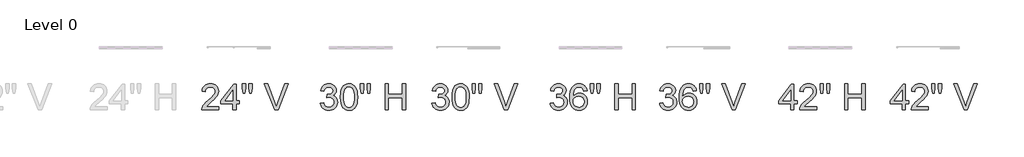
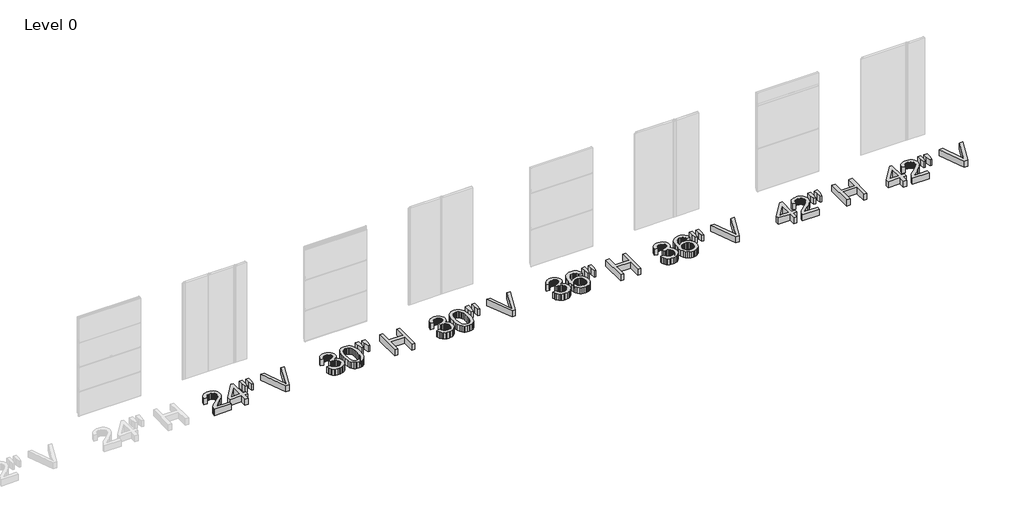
# One storey, part 3 of 5: 7 proxies.
"""IFC4 building model written with IfcOpenShell, lengths in millimetres."""

import ifcopenshell
import ifcopenshell.guid

model = None  # the IFC model being written
_history = None  # IfcOwnerHistory: only IFC2X3 demands one
_inside = {}  # id of a spatial element -> (the spatial element, [elements in it])
_under = {}  # id of a project, library or spatial element -> (it, [spatial elements below it])
_declared = {}  # id of a project -> (the project, [libraries it declares])
_typed = {}  # id of a type object -> (the type object, [elements of that type])
_made_of = {}  # id of a material, layer set ... -> (it, [elements and type objects made of it])


def new_model(schema):
    """Start an empty IFC model of exactly this schema.

    Asked for "IFC4X3", IfcOpenShell would pick the latest addendum, in which some entities
    have other attributes; the version numbers below select the first issue.
    IFC2X3 requires an IfcOwnerHistory on every rooted entity: one is made here for all.
    """
    global model, _history
    if schema == "IFC4X3":
        model = ifcopenshell.file(schema_version=(4, 3, 0, 0))
    else:
        model = ifcopenshell.file(schema=schema)
    _inside.clear()
    _under.clear()
    _declared.clear()
    _typed.clear()
    _made_of.clear()
    _history = None
    if model.schema == "IFC2X3":
        org = make("IfcOrganization", Name="unknown")
        user = make(
            "IfcPersonAndOrganization",
            ThePerson=make("IfcPerson", FamilyName="unknown"),
            TheOrganization=org,
        )
        app = make(
            "IfcApplication",
            ApplicationDeveloper=org,
            Version="unknown",
            ApplicationFullName="unknown",
            ApplicationIdentifier="unknown",
        )
        _history = make(
            "IfcOwnerHistory",
            OwningUser=user,
            OwningApplication=app,
            ChangeAction="ADDED",
            CreationDate=0,
        )
    return model


def make(cls, **values):
    """One entity of the class cls with the attributes given. An attribute that is None is left unset."""
    return model.create_entity(
        cls, **{name: value for name, value in values.items() if value is not None}
    )


def rooted(cls, **values):
    """An entity with a GlobalId (a new one), such as an element, a storey or a relation."""
    return make(cls, GlobalId=ifcopenshell.guid.new(), OwnerHistory=_history, **values)


def si_unit(unit_type, name, prefix=None):
    """IfcSIUnit, for example si_unit("LENGTHUNIT", "METRE", prefix="MILLI")."""
    return make("IfcSIUnit", UnitType=unit_type, Prefix=prefix, Name=name)


def assignment(units):
    """IfcUnitAssignment: the units of a project."""
    return None if units is None else make("IfcUnitAssignment", Units=units)


def point(xyz):
    """IfcCartesianPoint."""
    return None if xyz is None else make("IfcCartesianPoint", Coordinates=xyz)


def direction(xyz):
    """IfcDirection."""
    return None if xyz is None else make("IfcDirection", DirectionRatios=xyz)


def frame(location, z_axis=None, x_axis=None):
    """IfcAxis2Placement3D, a coordinate frame: its origin and axes. An axis left out is left unset."""
    return make(
        "IfcAxis2Placement3D",
        Location=point(location),
        Axis=direction(z_axis),
        RefDirection=direction(x_axis),
    )


def origin():
    """The frame at (0, 0, 0) with its axes left unset."""
    return frame((0.0, 0.0, 0.0))


def origin_with_axes():
    """The frame at (0, 0, 0) with the z axis (0, 0, 1) and the x axis (1, 0, 0) written out."""
    return frame((0.0, 0.0, 0.0), z_axis=(0.0, 0.0, 1.0), x_axis=(1.0, 0.0, 0.0))


def place(relative_to, where):
    """IfcLocalPlacement: puts the frame where relative to a parent placement (None: the world)."""
    return make(
        "IfcLocalPlacement", PlacementRelTo=relative_to, RelativePlacement=where
    )


def context(
    kind, dimensions, precision=None, world=None, true_north=None, identifier=None
):
    """IfcGeometricRepresentationContext, for example the 3D "Model" context."""
    return make(
        "IfcGeometricRepresentationContext",
        ContextIdentifier=identifier,
        ContextType=kind,
        CoordinateSpaceDimension=dimensions,
        Precision=precision,
        WorldCoordinateSystem=world,
        TrueNorth=true_north,
    )


def project(units=None, contexts=None):
    """IfcProject with its units and contexts."""
    return rooted(
        "IfcProject",
        Name="project",
        RepresentationContexts=contexts,
        UnitsInContext=assignment(units),
    )


def spatial(cls, under=None, at=None, **own):
    """A site, building, storey or space (cls), placed at a placement, below another one or the project."""
    s = rooted(cls, ObjectPlacement=at, **own)
    if under is not None:
        _under.setdefault(under.id(), (under, []))[1].append(s)
    return s


def polyline(points):
    """IfcPolyline through the points."""
    return make("IfcPolyline", Points=[point(p) for p in points])


def outline(outer, holes=None, kind="AREA"):
    """IfcArbitraryClosedProfileDef: a profile drawn as a closed curve; with holes, ...WithVoids."""
    if holes is None:
        return make("IfcArbitraryClosedProfileDef", ProfileType=kind, OuterCurve=outer)
    return make(
        "IfcArbitraryProfileDefWithVoids",
        ProfileType=kind,
        OuterCurve=outer,
        InnerCurves=holes,
    )


def extrude(swept, where, along, depth):
    """IfcExtrudedAreaSolid: the profile swept, set in the frame where, extruded along a direction by depth."""
    return make(
        "IfcExtrudedAreaSolid",
        SweptArea=swept,
        Position=where,
        ExtrudedDirection=direction(along),
        Depth=depth,
    )


def shape(context_of_items, identifier, shape_type, items):
    """IfcShapeRepresentation: the items that make up one representation, for example the "Body"."""
    return make(
        "IfcShapeRepresentation",
        ContextOfItems=context_of_items,
        RepresentationIdentifier=identifier,
        RepresentationType=shape_type,
        Items=items,
    )


def made_of(thing, what):
    """Note that an element or type object is made of a material, layer set ...; save() writes the relation."""
    if what is not None:
        _made_of.setdefault(what.id(), (what, []))[1].append(thing)
    return thing


def element(
    cls,
    number,
    at=None,
    inside=None,
    cuts=None,
    type_object=None,
    material=None,
    context=None,
    identifier="Body",
    shape_type=None,
    held_by="IfcProductDefinitionShape",
    body=None,
    shapes=None,
    **own,
):
    """One element of the class cls, such as IfcWall. Its Tag is "e" and its number.

    at: its placement. inside: the storey or other place that contains it. cuts: it is an
    opening in that element (IfcRelVoidsElement). A single representation is given by context,
    identifier, shape_type and body (its items); several are given by shapes. held_by: the class
    of the entity that holds the representations. save() writes the other relations.
    """
    e = rooted(cls, Tag="e%d" % number, ObjectPlacement=at, **own)
    if body is not None:
        shapes = [shape(context, identifier, shape_type, body)]
    if shapes is not None:
        e.Representation = make(held_by, Representations=shapes)
    if inside is not None:
        _inside.setdefault(inside.id(), (inside, []))[1].append(e)
    if cuts is not None:
        rooted(
            "IfcRelVoidsElement", RelatingBuildingElement=cuts, RelatedOpeningElement=e
        )
    if type_object is not None:
        _typed.setdefault(type_object.id(), (type_object, []))[1].append(e)
    return made_of(e, material)


def aggregate(whole, parts):
    """IfcRelAggregates: a whole, such as a stair, and the parts it consists of."""
    return rooted("IfcRelAggregates", RelatingObject=whole, RelatedObjects=parts)


def save(model, path):
    """Write the relations noted so far, then the file.

    IfcRelAggregates (storeys below a building ...), IfcRelContainedInSpatialStructure (elements
    in a storey), IfcRelDefinesByType, IfcRelAssociatesMaterial and IfcRelDeclares: one each for
    every whole, place, type object, material and project.
    """
    for whole, parts in _under.values():
        aggregate(whole, parts)
    for where, things in _inside.values():
        rooted(
            "IfcRelContainedInSpatialStructure",
            RelatedElements=things,
            RelatingStructure=where,
        )
    for kind, things in _typed.values():
        rooted("IfcRelDefinesByType", RelatedObjects=things, RelatingType=kind)
    for what, things in _made_of.values():
        rooted("IfcRelAssociatesMaterial", RelatedObjects=things, RelatingMaterial=what)
    for by, libraries in _declared.values():
        rooted("IfcRelDeclares", RelatingContext=by, RelatedDefinitions=libraries)
    model.write(path)


model = new_model("IFC4")

# Units and contexts
model_context = context("Model", 3, world=origin())
ifc_project = project(units=[si_unit("LENGTHUNIT", "METRE", prefix="MILLI")], contexts=[model_context])

# Site, building, storey
site = spatial("IfcSite", under=ifc_project)
building = spatial("IfcBuilding", under=site)
storey = spatial("IfcBuildingStorey", under=building, Name="Level 0", Elevation=0.0)

# Proxies
placement = place(None, origin())
element("IfcBuildingElementProxy", 1, Name="24\" Arial", ObjectType="24\" Arial", at=placement, inside=storey, context=model_context, shape_type="SweptSolid", body=[
    extrude(outline(polyline([(-22407.9539818, 9485.5823155), (-22407.9539818, 9409.440542), (-22807.6982928, 9409.440542), (-22806.0252557, 9436.2463129), (-22799.5190007, 9461.9367257), (-22780.7438075, 9502.9633112), (-22753.2688218, 9542.7630029), (-22713.5248981, 9584.4216246), (-22657.9428905, 9631.0250001), (-22575.7781838, 9704.0065926), (-22526.4793597, 9757.8783845), (-22512.100536, 9779.8881159), (-22501.8299477, 9801.6004185), (-22495.6675947, 9823.0152923), (-22493.613477, 9844.1327373), (-22495.5514115, 9864.0000519), (-22501.3652152, 9882.259392), (-22511.0548879, 9898.9107576), (-22524.6204297, 9913.9541488), (-22541.3089739, 9926.4136272), (-22560.3676539, 9935.3132547), (-22581.7964697, 9940.6530311), (-22605.5954213, 9942.4329566), (-22630.6677399, 9940.6948571), (-22653.0910832, 9935.4805584), (-22672.8654513, 9926.7900605), (-22689.990844, 9914.6233636), (-22703.84452, 9899.3894321), (-22713.8037376, 9881.4972307), (-22719.8684968, 9860.9467593), (-22722.0387975, 9837.7380181), (-22798.1805711, 9847.2557397), (-22791.6324901, 9886.562815), (-22779.721396, 9920.906547), (-22762.4472888, 9950.286936), (-22739.8101685, 9974.7039817), (-22712.3305355, 9993.8974342), (-22680.5288903, 10007.6070431), (-22644.4052327, 10015.8328084), (-22603.9595628, 10018.5747302), (-22563.1514016, 10015.5260849), (-22526.8325564, 10006.3801492), (-22495.0030272, 9991.1369231), (-22467.662814, 9969.7964065), (-22445.7042031, 9943.93869), (-22430.0194811, 9915.143864), (-22420.6086479, 9883.4119286), (-22417.4717035, 9848.7428838), (-22420.8549561, 9812.3264447), (-22431.004714, 9776.5420419), (-22449.0177459, 9740.1441921), (-22475.9908204, 9701.8874124), (-22518.9878717, 9656.2135018), (-22585.0728339, 9597.5642598), (-22672.6656163, 9524.3224171), (-22707.018643, 9485.5823155), (-22407.9539818, 9485.5823155)])), origin_with_axes(), (0.0, 0.0, 1.0), 152.4),
    extrude(outline(polyline([(-22084.3514443, 9409.440542), (-22084.3514443, 9552.2063674), (-22360.3653733, 9552.2063674), (-22360.3653733, 9628.3481409), (-22065.316001, 10009.0570085), (-22008.2096708, 10009.0570085), (-22008.2096708, 9628.3481409), (-21932.0678973, 9628.3481409), (-21932.0678973, 9552.2063674), (-22008.2096708, 9552.2063674), (-22008.2096708, 9409.440542), (-22084.3514443, 9409.440542)]), holes=[polyline([(-22084.3514443, 9628.3481409), (-22084.3514443, 9863.6143239), (-22266.6753005, 9628.3481409), (-22084.3514443, 9628.3481409)])]), origin_with_axes(), (0.0, 0.0, 1.0), 152.4),
    extrude(outline(polyline([(-21846.8545453, 9799.6671313), (-21865.4438455, 9917.3002228), (-21865.4438455, 10018.5747302), (-21789.302072, 10018.5747302), (-21789.302072, 9917.3002228), (-21805.9580849, 9799.6671313), (-21846.8545453, 9799.6671313)])), origin_with_axes(), (0.0, 0.0, 1.0), 152.4),
    extrude(outline(polyline([(-21695.0171415, 9799.6671313), (-21713.1602984, 9917.3002228), (-21713.1602984, 10018.5747302), (-21637.0185249, 10018.5747302), (-21637.0185249, 9917.3002228), (-21654.8642531, 9799.6671313), (-21695.0171415, 9799.6671313)])), origin_with_axes(), (0.0, 0.0, 1.0), 152.4),
    extrude(outline(polyline([(-21114.4361184, 9409.440542), (-21356.8405927, 10018.5747302), (-21275.3451007, 10018.5747302), (-21113.0976888, 9579.7185316), (-21080.2318061, 9480.8234547), (-21047.8120666, 9579.7185316), (-20885.1185114, 10018.5747302), (-20803.6230195, 10018.5747302), (-21035.7662001, 9409.440542), (-21114.4361184, 9409.440542)])), origin_with_axes(), (0.0, 0.0, 1.0), 152.4),
])
element("IfcBuildingElementProxy", 2, Name="24\" Arial", ObjectType="24\" Arial", at=placement, inside=storey, context=model_context, shape_type="SweptSolid", body=[
    extrude(outline(polyline([(-20054.9805711, 9571.2418107), (-19978.8387975, 9580.7595324), (-19961.7924093, 9532.9106738), (-19950.2995745, 9514.8139901), (-19936.8269792, 9500.6024701), (-19921.0678999, 9489.8671492), (-19902.7156133, 9482.1990629), (-19881.7701194, 9477.5982111), (-19858.231418, 9476.0645938), (-19830.6448966, 9478.1744794), (-19806.0326631, 9484.5041361), (-19784.3947177, 9495.053564), (-19765.7310603, 9509.822763), (-19750.7016111, 9527.7056697), (-19739.9662903, 9547.5962209), (-19733.5250978, 9569.4944165), (-19731.3780336, 9593.4002566), (-19733.5065085, 9616.1675019), (-19739.8919331, 9636.8806297), (-19750.5343074, 9655.5396397), (-19765.4336315, 9672.1445321), (-19783.6139671, 9685.7751364), (-19804.0993759, 9695.5112824), (-19826.8898579, 9701.35297), (-19851.9854132, 9703.3001992), (-19876.0399676, 9701.2181976), (-19905.3738833, 9694.9721927), (-19896.8971624, 9771.1139662), (-19884.7025815, 9770.2216798), (-19839.0844388, 9775.6869341), (-19798.2995142, 9792.0826968), (-19781.5133762, 9804.48176), (-19769.5232776, 9819.8179327), (-19762.3292184, 9838.0912148), (-19759.9311987, 9859.3016063), (-19761.6692983, 9876.5199455), (-19766.883597, 9892.1860783), (-19775.5740948, 9906.3000044), (-19787.7407917, 9918.861724), (-19802.6494105, 9929.1741383), (-19819.5656736, 9936.5401485), (-19838.4895812, 9940.9597546), (-19859.4211332, 9942.4329566), (-19880.2969173, 9940.9458126), (-19899.35095, 9936.4843806), (-19916.5832313, 9929.0486605), (-19931.9937611, 9918.6386524), (-19945.2014589, 9905.2543563), (-19955.8252439, 9888.8957721), (-19963.8651163, 9869.5629), (-19969.3210759, 9847.2557397), (-20045.4628494, 9856.7734614), (-20036.4377441, 9893.1248379), (-20023.0441534, 9925.1449075), (-20005.282077, 9952.8336701), (-19983.1515152, 9976.1911258), (-19957.3495665, 9994.7339527), (-19928.5733299, 10007.9788291), (-19896.8228052, 10015.9257549), (-19862.0979924, 10018.5747302), (-19814.2305445, 10013.3511368), (-19770.2668496, 9997.6803568), (-19733.199785, 9972.9565875), (-19706.0222282, 9940.5740266), (-19689.3476259, 9903.2653012), (-19683.7894252, 9863.7630383), (-19689.0687864, 9826.956224), (-19704.9068702, 9793.5698408), (-19731.0806048, 9765.1282116), (-19767.3669188, 9743.1556588), (-19741.992524, 9735.2180276), (-19719.7039531, 9723.8971438), (-19700.501206, 9709.1930073), (-19684.3842828, 9691.1056183), (-19671.6320229, 9670.0811198), (-19662.5232658, 9646.5656551), (-19657.0580115, 9620.5592241), (-19655.2362601, 9592.0618269), (-19658.8797629, 9553.4332612), (-19669.8102714, 9517.8533406), (-19688.0277856, 9485.3220653), (-19713.5323054, 9455.8394353), (-19744.6043207, 9431.3759162), (-19779.5243211, 9413.9019741), (-19818.2923066, 9403.4176088), (-19860.9082772, 9399.9228203), (-19899.4253072, 9402.906403), (-19934.5219059, 9411.857151), (-19966.1980734, 9426.7750644), (-19994.4538097, 9447.6601432), (-20018.1458728, 9473.2854935), (-20036.1310207, 9502.4242215), (-20048.4092535, 9535.0763273), (-20054.9805711, 9571.2418107)])), origin_with_axes(), (0.0, 0.0, 1.0), 152.4),
    extrude(outline(polyline([(-19588.6122083, 9709.1000608), (-19583.0168289, 9806.6009403), (-19576.0226047, 9847.9481912), (-19566.2306909, 9884.3599829), (-19553.6829132, 9916.1337442), (-19538.4210978, 9943.5669039), (-19520.4452445, 9966.6594621), (-19499.7553534, 9985.4114186), (-19476.2817146, 9999.9203674), (-19449.9546183, 10010.2839023), (-19420.7740643, 10016.5020232), (-19388.7400528, 10018.5747302), (-19341.8206591, 10013.6671549), (-19299.8088408, 9998.9444292), (-19264.6750634, 9974.9828212), (-19238.389793, 9942.3585994), (-19218.5364204, 9901.3506033), (-19202.6983366, 9852.2376722), (-19192.3255071, 9789.8705701), (-19188.8678973, 9709.1000608), (-19194.4075088, 9612.1568604), (-19201.3320231, 9570.9490293), (-19211.0263431, 9534.5837108), (-19223.4765269, 9502.7960075), (-19238.6686325, 9475.3210218), (-19256.6026598, 9452.1587538), (-19277.2786089, 9433.3092034), (-19300.7801317, 9418.7026608), (-19327.1908799, 9408.2694161), (-19356.5108536, 9402.0094693), (-19388.7400528, 9399.9228203), (-19430.677514, 9403.5477339), (-19467.8561143, 9414.4224745), (-19500.2758538, 9432.5470421), (-19527.9367325, 9457.9214369), (-19554.4822532, 9503.7905351), (-19573.4433393, 9560.9433384), (-19584.819991, 9629.379847), (-19588.6122083, 9709.1000608)]), holes=[polyline([(-19512.4704348, 9709.2487752), (-19510.2397187, 9643.0569246), (-19503.5475707, 9589.4779142), (-19492.3939906, 9548.511744), (-19476.7789784, 9520.1584139), (-19457.8922494, 9500.8673676), (-19436.9235188, 9487.0880488), (-19413.8727866, 9478.8204576), (-19388.7400528, 9476.0645938), (-19363.607319, 9478.8297522), (-19340.5565867, 9487.1252274), (-19319.5878561, 9500.9510195), (-19300.7011272, 9520.3071283), (-19285.086115, 9548.7069316), (-19273.9325349, 9589.6638072), (-19267.2403868, 9643.1777551), (-19265.0096708, 9709.2487752), (-19267.1660296, 9773.6885843), (-19273.6351061, 9826.3241877), (-19284.4169002, 9867.1555856), (-19299.511412, 9896.1827778), (-19318.0821228, 9916.417231), (-19339.2925143, 9930.8704119), (-19363.1425864, 9939.5423205), (-19389.6323392, 9942.4329566), (-19414.6349479, 9939.8862225), (-19437.2953048, 9932.2460201), (-19457.6134099, 9919.5123495), (-19475.5892632, 9901.6852107), (-19491.7247758, 9870.0834004), (-19503.2501419, 9827.4767244), (-19510.1653615, 9773.8651827), (-19512.4704348, 9709.2487752)])]), origin_with_axes(), (0.0, 0.0, 1.0), 152.4),
    extrude(outline(polyline([(-19103.6545453, 9799.6671313), (-19122.2438455, 9917.3002228), (-19122.2438455, 10018.5747302), (-19046.102072, 10018.5747302), (-19046.102072, 9917.3002228), (-19062.7580849, 9799.6671313), (-19103.6545453, 9799.6671313)])), origin_with_axes(), (0.0, 0.0, 1.0), 152.4),
    extrude(outline(polyline([(-18951.8171415, 9799.6671313), (-18969.9602984, 9917.3002228), (-18969.9602984, 10018.5747302), (-18893.8185249, 10018.5747302), (-18893.8185249, 9917.3002228), (-18911.6642531, 9799.6671313), (-18951.8171415, 9799.6671313)])), origin_with_axes(), (0.0, 0.0, 1.0), 152.4),
    extrude(outline(polyline([(-18551.1805441, 9409.440542), (-18551.1805441, 10018.5747302), (-18475.0387706, 10018.5747302), (-18475.0387706, 9771.1139662), (-18151.4362331, 9771.1139662), (-18151.4362331, 10018.5747302), (-18075.2944596, 10018.5747302), (-18075.2944596, 9409.440542), (-18151.4362331, 9409.440542), (-18151.4362331, 9694.9721927), (-18475.0387706, 9694.9721927), (-18475.0387706, 9409.440542), (-18551.1805441, 9409.440542)])), origin_with_axes(), (0.0, 0.0, 1.0), 152.4),
])
element("IfcBuildingElementProxy", 3, Name="24\" Arial", ObjectType="24\" Arial", at=placement, inside=storey, context=model_context, shape_type="SweptSolid", body=[
    extrude(outline(polyline([(-17464.1805711, 9571.2418107), (-17388.0387975, 9580.7595324), (-17370.9924093, 9532.9106738), (-17359.4995745, 9514.8139901), (-17346.0269792, 9500.6024701), (-17330.2678999, 9489.8671492), (-17311.9156133, 9482.1990629), (-17290.9701194, 9477.5982111), (-17267.431418, 9476.0645938), (-17239.8448966, 9478.1744794), (-17215.2326631, 9484.5041361), (-17193.5947177, 9495.053564), (-17174.9310603, 9509.822763), (-17159.9016111, 9527.7056697), (-17149.1662903, 9547.5962209), (-17142.7250978, 9569.4944165), (-17140.5780336, 9593.4002566), (-17142.7065085, 9616.1675019), (-17149.0919331, 9636.8806297), (-17159.7343074, 9655.5396397), (-17174.6336315, 9672.1445321), (-17192.8139671, 9685.7751364), (-17213.2993759, 9695.5112824), (-17236.0898579, 9701.35297), (-17261.1854132, 9703.3001992), (-17285.2399676, 9701.2181976), (-17314.5738833, 9694.9721927), (-17306.0971624, 9771.1139662), (-17293.9025815, 9770.2216798), (-17248.2844388, 9775.6869341), (-17207.4995142, 9792.0826968), (-17190.7133762, 9804.48176), (-17178.7232776, 9819.8179327), (-17171.5292184, 9838.0912148), (-17169.1311987, 9859.3016063), (-17170.8692983, 9876.5199455), (-17176.083597, 9892.1860783), (-17184.7740948, 9906.3000044), (-17196.9407917, 9918.861724), (-17211.8494105, 9929.1741383), (-17228.7656736, 9936.5401485), (-17247.6895812, 9940.9597546), (-17268.6211332, 9942.4329566), (-17289.4969173, 9940.9458126), (-17308.55095, 9936.4843806), (-17325.7832313, 9929.0486605), (-17341.1937611, 9918.6386524), (-17354.4014589, 9905.2543563), (-17365.0252439, 9888.8957721), (-17373.0651163, 9869.5629), (-17378.5210759, 9847.2557397), (-17454.6628494, 9856.7734614), (-17445.6377441, 9893.1248379), (-17432.2441534, 9925.1449075), (-17414.482077, 9952.8336701), (-17392.3515152, 9976.1911258), (-17366.5495665, 9994.7339527), (-17337.7733299, 10007.9788291), (-17306.0228052, 10015.9257549), (-17271.2979924, 10018.5747302), (-17223.4305445, 10013.3511368), (-17179.4668496, 9997.6803568), (-17142.399785, 9972.9565875), (-17115.2222282, 9940.5740266), (-17098.5476259, 9903.2653012), (-17092.9894252, 9863.7630383), (-17098.2687864, 9826.956224), (-17114.1068702, 9793.5698408), (-17140.2806048, 9765.1282116), (-17176.5669188, 9743.1556588), (-17151.192524, 9735.2180276), (-17128.9039531, 9723.8971438), (-17109.701206, 9709.1930073), (-17093.5842828, 9691.1056183), (-17080.8320229, 9670.0811198), (-17071.7232658, 9646.5656551), (-17066.2580115, 9620.5592241), (-17064.4362601, 9592.0618269), (-17068.0797629, 9553.4332612), (-17079.0102714, 9517.8533406), (-17097.2277856, 9485.3220653), (-17122.7323054, 9455.8394353), (-17153.8043207, 9431.3759162), (-17188.7243211, 9413.9019741), (-17227.4923066, 9403.4176088), (-17270.1082772, 9399.9228203), (-17308.6253072, 9402.906403), (-17343.7219059, 9411.857151), (-17375.3980734, 9426.7750644), (-17403.6538097, 9447.6601432), (-17427.3458728, 9473.2854935), (-17445.3310207, 9502.4242215), (-17457.6092535, 9535.0763273), (-17464.1805711, 9571.2418107)])), origin_with_axes(), (0.0, 0.0, 1.0), 152.4),
    extrude(outline(polyline([(-16997.8122083, 9709.1000608), (-16992.2168289, 9806.6009403), (-16985.2226047, 9847.9481912), (-16975.4306909, 9884.3599829), (-16962.8829132, 9916.1337442), (-16947.6210978, 9943.5669039), (-16929.6452445, 9966.6594621), (-16908.9553534, 9985.4114186), (-16885.4817146, 9999.9203674), (-16859.1546183, 10010.2839023), (-16829.9740643, 10016.5020232), (-16797.9400528, 10018.5747302), (-16751.0206591, 10013.6671549), (-16709.0088408, 9998.9444292), (-16673.8750634, 9974.9828212), (-16647.589793, 9942.3585994), (-16627.7364204, 9901.3506033), (-16611.8983366, 9852.2376722), (-16601.5255071, 9789.8705701), (-16598.0678973, 9709.1000608), (-16603.6075088, 9612.1568604), (-16610.5320231, 9570.9490293), (-16620.2263431, 9534.5837108), (-16632.6765269, 9502.7960075), (-16647.8686325, 9475.3210218), (-16665.8026598, 9452.1587538), (-16686.4786089, 9433.3092034), (-16709.9801317, 9418.7026608), (-16736.3908799, 9408.2694161), (-16765.7108536, 9402.0094693), (-16797.9400528, 9399.9228203), (-16839.877514, 9403.5477339), (-16877.0561143, 9414.4224745), (-16909.4758538, 9432.5470421), (-16937.1367325, 9457.9214369), (-16963.6822532, 9503.7905351), (-16982.6433393, 9560.9433384), (-16994.019991, 9629.379847), (-16997.8122083, 9709.1000608)]), holes=[polyline([(-16921.6704348, 9709.2487752), (-16919.4397187, 9643.0569246), (-16912.7475707, 9589.4779142), (-16901.5939906, 9548.511744), (-16885.9789784, 9520.1584139), (-16867.0922494, 9500.8673676), (-16846.1235188, 9487.0880488), (-16823.0727866, 9478.8204576), (-16797.9400528, 9476.0645938), (-16772.807319, 9478.8297522), (-16749.7565867, 9487.1252274), (-16728.7878561, 9500.9510195), (-16709.9011272, 9520.3071283), (-16694.286115, 9548.7069316), (-16683.1325349, 9589.6638072), (-16676.4403868, 9643.1777551), (-16674.2096708, 9709.2487752), (-16676.3660296, 9773.6885843), (-16682.8351061, 9826.3241877), (-16693.6169002, 9867.1555856), (-16708.711412, 9896.1827778), (-16727.2821228, 9916.417231), (-16748.4925143, 9930.8704119), (-16772.3425864, 9939.5423205), (-16798.8323392, 9942.4329566), (-16823.8349479, 9939.8862225), (-16846.4953048, 9932.2460201), (-16866.8134099, 9919.5123495), (-16884.7892632, 9901.6852107), (-16900.9247758, 9870.0834004), (-16912.4501419, 9827.4767244), (-16919.3653615, 9773.8651827), (-16921.6704348, 9709.2487752)])]), origin_with_axes(), (0.0, 0.0, 1.0), 152.4),
    extrude(outline(polyline([(-16512.8545453, 9799.6671313), (-16531.4438455, 9917.3002228), (-16531.4438455, 10018.5747302), (-16455.302072, 10018.5747302), (-16455.302072, 9917.3002228), (-16471.9580849, 9799.6671313), (-16512.8545453, 9799.6671313)])), origin_with_axes(), (0.0, 0.0, 1.0), 152.4),
    extrude(outline(polyline([(-16361.0171415, 9799.6671313), (-16379.1602984, 9917.3002228), (-16379.1602984, 10018.5747302), (-16303.0185249, 10018.5747302), (-16303.0185249, 9917.3002228), (-16320.8642531, 9799.6671313), (-16361.0171415, 9799.6671313)])), origin_with_axes(), (0.0, 0.0, 1.0), 152.4),
    extrude(outline(polyline([(-15780.4361184, 9409.440542), (-16022.8405927, 10018.5747302), (-15941.3451007, 10018.5747302), (-15779.0976888, 9579.7185316), (-15746.2318061, 9480.8234547), (-15713.8120666, 9579.7185316), (-15551.1185114, 10018.5747302), (-15469.6230195, 10018.5747302), (-15701.7662001, 9409.440542), (-15780.4361184, 9409.440542)])), origin_with_axes(), (0.0, 0.0, 1.0), 152.4),
])
element("IfcBuildingElementProxy", 4, Name="24\" Arial", ObjectType="24\" Arial", at=placement, inside=storey, context=model_context, shape_type="SweptSolid", body=[
    extrude(outline(polyline([(-14720.9805711, 9571.2418107), (-14644.8387975, 9580.7595324), (-14627.7924093, 9532.9106738), (-14616.2995745, 9514.8139901), (-14602.8269792, 9500.6024701), (-14587.0678999, 9489.8671492), (-14568.7156133, 9482.1990629), (-14547.7701194, 9477.5982111), (-14524.231418, 9476.0645938), (-14496.6448966, 9478.1744794), (-14472.0326631, 9484.5041361), (-14450.3947177, 9495.053564), (-14431.7310603, 9509.822763), (-14416.7016111, 9527.7056697), (-14405.9662903, 9547.5962209), (-14399.5250978, 9569.4944165), (-14397.3780336, 9593.4002566), (-14399.5065085, 9616.1675019), (-14405.8919331, 9636.8806297), (-14416.5343074, 9655.5396397), (-14431.4336315, 9672.1445321), (-14449.6139671, 9685.7751364), (-14470.0993759, 9695.5112824), (-14492.8898579, 9701.35297), (-14517.9854132, 9703.3001992), (-14542.0399676, 9701.2181976), (-14571.3738833, 9694.9721927), (-14562.8971624, 9771.1139662), (-14550.7025815, 9770.2216798), (-14505.0844388, 9775.6869341), (-14464.2995142, 9792.0826968), (-14447.5133762, 9804.48176), (-14435.5232776, 9819.8179327), (-14428.3292184, 9838.0912148), (-14425.9311987, 9859.3016063), (-14427.6692983, 9876.5199455), (-14432.883597, 9892.1860783), (-14441.5740948, 9906.3000044), (-14453.7407917, 9918.861724), (-14468.6494105, 9929.1741383), (-14485.5656736, 9936.5401485), (-14504.4895812, 9940.9597546), (-14525.4211332, 9942.4329566), (-14546.2969173, 9940.9458126), (-14565.35095, 9936.4843806), (-14582.5832313, 9929.0486605), (-14597.9937611, 9918.6386524), (-14611.2014589, 9905.2543563), (-14621.8252439, 9888.8957721), (-14629.8651163, 9869.5629), (-14635.3210759, 9847.2557397), (-14711.4628494, 9856.7734614), (-14702.4377441, 9893.1248379), (-14689.0441534, 9925.1449075), (-14671.282077, 9952.8336701), (-14649.1515152, 9976.1911258), (-14623.3495665, 9994.7339527), (-14594.5733299, 10007.9788291), (-14562.8228052, 10015.9257549), (-14528.0979924, 10018.5747302), (-14480.2305445, 10013.3511368), (-14436.2668496, 9997.6803568), (-14399.199785, 9972.9565875), (-14372.0222282, 9940.5740266), (-14355.3476259, 9903.2653012), (-14349.7894252, 9863.7630383), (-14355.0687864, 9826.956224), (-14370.9068702, 9793.5698408), (-14397.0806048, 9765.1282116), (-14433.3669188, 9743.1556588), (-14407.992524, 9735.2180276), (-14385.7039531, 9723.8971438), (-14366.501206, 9709.1930073), (-14350.3842828, 9691.1056183), (-14337.6320229, 9670.0811198), (-14328.5232658, 9646.5656551), (-14323.0580115, 9620.5592241), (-14321.2362601, 9592.0618269), (-14324.8797629, 9553.4332612), (-14335.8102714, 9517.8533406), (-14354.0277856, 9485.3220653), (-14379.5323054, 9455.8394353), (-14410.6043207, 9431.3759162), (-14445.5243211, 9413.9019741), (-14484.2923066, 9403.4176088), (-14526.9082772, 9399.9228203), (-14565.4253072, 9402.906403), (-14600.5219059, 9411.857151), (-14632.1980734, 9426.7750644), (-14660.4538097, 9447.6601432), (-14684.1458728, 9473.2854935), (-14702.1310207, 9502.4242215), (-14714.4092535, 9535.0763273), (-14720.9805711, 9571.2418107)])), origin_with_axes(), (0.0, 0.0, 1.0), 152.4),
    extrude(outline(polyline([(-13864.385619, 9856.7734614), (-13940.5273925, 9847.2557397), (-13952.7963306, 9884.9920191), (-13969.3779864, 9910.7567891), (-13985.7458652, 9924.6151124), (-14003.9169061, 9934.5139148), (-14023.8911091, 9940.4531962), (-14045.6684743, 9942.4329566), (-14081.0625018, 9937.8228102), (-14114.3745278, 9923.9923709), (-14142.9834607, 9894.8629375), (-14166.350211, 9854.765817), (-14175.4822048, 9829.1915873), (-14182.1325269, 9798.0498622), (-14187.9881564, 9719.0639257), (-14157.4459363, 9754.6996142), (-14120.8436042, 9779.8137587), (-14080.2259833, 9794.7037881), (-14037.6378966, 9799.6671313), (-14001.0541539, 9796.274584), (-13967.2959848, 9786.0969422), (-13936.3633893, 9769.1342058), (-13908.2563674, 9745.3863748), (-13884.8989117, 9716.2662361), (-13868.2150148, 9683.1865764), (-13858.2046767, 9646.1473958), (-13854.8678973, 9605.1486943), (-13856.4386932, 9577.3902218), (-13861.1510808, 9550.6262768), (-13869.0050601, 9524.8568595), (-13880.0006311, 9500.0819697), (-13893.7474186, 9477.2264251), (-13909.8550472, 9457.2150435), (-13928.3235169, 9440.0478248), (-13949.1528278, 9425.724769), (-13971.8968366, 9414.4364164), (-13996.1094, 9406.3733075), (-14021.7905182, 9401.5354421), (-14048.9401911, 9399.9228203), (-14094.3306148, 9404.1983594), (-14135.324669, 9417.0249765), (-14171.9223538, 9438.4026717), (-14204.123669, 9468.331445), (-14230.3764082, 9508.0753687), (-14249.1283647, 9558.8985154), (-14260.3795387, 9620.800885), (-14264.12993, 9693.7824775), (-14259.9659267, 9775.6032822), (-14247.473917, 9845.4339883), (-14226.6539008, 9903.2745958), (-14213.1208903, 9927.6986126), (-14197.5058781, 9949.1251047), (-14165.9133625, 9979.5093158), (-14129.2831465, 10001.2123238), (-14087.6152301, 10014.2341286), (-14040.9096135, 10018.5747302), (-14005.8408987, 10015.8885763), (-13974.0996686, 10007.8301147), (-13945.6859233, 9994.3993453), (-13920.5996627, 9975.5962682), (-13899.5193963, 9952.0529195), (-13883.1236336, 9924.4013355), (-13871.4123745, 9892.6415161), (-13864.385619, 9856.7734614)]), holes=[polyline([(-14187.9881564, 9606.3384095), (-14183.5824923, 9572.5988297), (-14170.3654999, 9540.3835725), (-14149.8429125, 9512.6855152), (-14123.5204634, 9492.4975352), (-14091.7513494, 9480.1728292), (-14054.8887672, 9476.0645938), (-14028.4222511, 9478.1930687), (-14004.6418888, 9484.5784933), (-13983.5476804, 9495.2208677), (-13965.1396259, 9510.1201918), (-13950.2077706, 9528.6723133), (-13939.5421596, 9550.2730801), (-13933.142793, 9574.9224922), (-13931.0096708, 9602.6205494), (-13933.1149091, 9629.23578), (-13939.4306238, 9652.8674278), (-13949.956815, 9673.515493), (-13964.6934827, 9691.1799755), (-13983.1573051, 9705.3310802), (-14004.8649604, 9715.4390122), (-14029.8164486, 9721.5037714), (-14058.0117696, 9723.5253578), (-14084.125089, 9721.5037714), (-14108.1842908, 9715.4390122), (-14130.1893749, 9705.3310802), (-14150.1403413, 9691.1799755), (-14166.6987604, 9673.7478592), (-14178.5262027, 9653.7968928), (-14185.622668, 9631.3270762), (-14187.9881564, 9606.3384095)])]), origin_with_axes(), (0.0, 0.0, 1.0), 152.4),
    extrude(outline(polyline([(-13769.6545453, 9799.6671313), (-13788.2438455, 9917.3002228), (-13788.2438455, 10018.5747302), (-13712.102072, 10018.5747302), (-13712.102072, 9917.3002228), (-13728.7580849, 9799.6671313), (-13769.6545453, 9799.6671313)])), origin_with_axes(), (0.0, 0.0, 1.0), 152.4),
    extrude(outline(polyline([(-13617.8171415, 9799.6671313), (-13635.9602984, 9917.3002228), (-13635.9602984, 10018.5747302), (-13559.8185249, 10018.5747302), (-13559.8185249, 9917.3002228), (-13577.6642531, 9799.6671313), (-13617.8171415, 9799.6671313)])), origin_with_axes(), (0.0, 0.0, 1.0), 152.4),
    extrude(outline(polyline([(-13217.1805441, 9409.440542), (-13217.1805441, 10018.5747302), (-13141.0387706, 10018.5747302), (-13141.0387706, 9771.1139662), (-12817.4362331, 9771.1139662), (-12817.4362331, 10018.5747302), (-12741.2944596, 10018.5747302), (-12741.2944596, 9409.440542), (-12817.4362331, 9409.440542), (-12817.4362331, 9694.9721927), (-13141.0387706, 9694.9721927), (-13141.0387706, 9409.440542), (-13217.1805441, 9409.440542)])), origin_with_axes(), (0.0, 0.0, 1.0), 152.4),
])
element("IfcBuildingElementProxy", 5, Name="24\" Arial", ObjectType="24\" Arial", at=placement, inside=storey, context=model_context, shape_type="SweptSolid", body=[
    extrude(outline(polyline([(-12180.9805711, 9571.2418107), (-12104.8387975, 9580.7595324), (-12087.7924093, 9532.9106738), (-12076.2995745, 9514.8139901), (-12062.8269792, 9500.6024701), (-12047.0678999, 9489.8671492), (-12028.7156133, 9482.1990629), (-12007.7701194, 9477.5982111), (-11984.231418, 9476.0645938), (-11956.6448966, 9478.1744794), (-11932.0326631, 9484.5041361), (-11910.3947177, 9495.053564), (-11891.7310603, 9509.822763), (-11876.7016111, 9527.7056697), (-11865.9662903, 9547.5962209), (-11859.5250978, 9569.4944165), (-11857.3780336, 9593.4002566), (-11859.5065085, 9616.1675019), (-11865.8919331, 9636.8806297), (-11876.5343074, 9655.5396397), (-11891.4336315, 9672.1445321), (-11909.6139671, 9685.7751364), (-11930.0993759, 9695.5112824), (-11952.8898579, 9701.35297), (-11977.9854132, 9703.3001992), (-12002.0399676, 9701.2181976), (-12031.3738833, 9694.9721927), (-12022.8971624, 9771.1139662), (-12010.7025815, 9770.2216798), (-11965.0844388, 9775.6869341), (-11924.2995142, 9792.0826968), (-11907.5133762, 9804.48176), (-11895.5232776, 9819.8179327), (-11888.3292184, 9838.0912148), (-11885.9311987, 9859.3016063), (-11887.6692983, 9876.5199455), (-11892.883597, 9892.1860783), (-11901.5740948, 9906.3000044), (-11913.7407917, 9918.861724), (-11928.6494105, 9929.1741383), (-11945.5656736, 9936.5401485), (-11964.4895812, 9940.9597546), (-11985.4211332, 9942.4329566), (-12006.2969173, 9940.9458126), (-12025.35095, 9936.4843806), (-12042.5832313, 9929.0486605), (-12057.9937611, 9918.6386524), (-12071.2014589, 9905.2543563), (-12081.8252439, 9888.8957721), (-12089.8651163, 9869.5629), (-12095.3210759, 9847.2557397), (-12171.4628494, 9856.7734614), (-12162.4377441, 9893.1248379), (-12149.0441534, 9925.1449075), (-12131.282077, 9952.8336701), (-12109.1515152, 9976.1911258), (-12083.3495665, 9994.7339527), (-12054.5733299, 10007.9788291), (-12022.8228052, 10015.9257549), (-11988.0979924, 10018.5747302), (-11940.2305445, 10013.3511368), (-11896.2668496, 9997.6803568), (-11859.199785, 9972.9565875), (-11832.0222282, 9940.5740266), (-11815.3476259, 9903.2653012), (-11809.7894252, 9863.7630383), (-11815.0687864, 9826.956224), (-11830.9068702, 9793.5698408), (-11857.0806048, 9765.1282116), (-11893.3669188, 9743.1556588), (-11867.992524, 9735.2180276), (-11845.7039531, 9723.8971438), (-11826.501206, 9709.1930073), (-11810.3842828, 9691.1056183), (-11797.6320229, 9670.0811198), (-11788.5232658, 9646.5656551), (-11783.0580115, 9620.5592241), (-11781.2362601, 9592.0618269), (-11784.8797629, 9553.4332612), (-11795.8102714, 9517.8533406), (-11814.0277856, 9485.3220653), (-11839.5323054, 9455.8394353), (-11870.6043207, 9431.3759162), (-11905.5243211, 9413.9019741), (-11944.2923066, 9403.4176088), (-11986.9082772, 9399.9228203), (-12025.4253072, 9402.906403), (-12060.5219059, 9411.857151), (-12092.1980734, 9426.7750644), (-12120.4538097, 9447.6601432), (-12144.1458728, 9473.2854935), (-12162.1310207, 9502.4242215), (-12174.4092535, 9535.0763273), (-12180.9805711, 9571.2418107)])), origin_with_axes(), (0.0, 0.0, 1.0), 152.4),
    extrude(outline(polyline([(-11324.385619, 9856.7734614), (-11400.5273925, 9847.2557397), (-11412.7963306, 9884.9920191), (-11429.3779864, 9910.7567891), (-11445.7458652, 9924.6151124), (-11463.9169061, 9934.5139148), (-11483.8911091, 9940.4531962), (-11505.6684743, 9942.4329566), (-11541.0625018, 9937.8228102), (-11574.3745278, 9923.9923709), (-11602.9834607, 9894.8629375), (-11626.350211, 9854.765817), (-11635.4822048, 9829.1915873), (-11642.1325269, 9798.0498622), (-11647.9881564, 9719.0639257), (-11617.4459363, 9754.6996142), (-11580.8436042, 9779.8137587), (-11540.2259833, 9794.7037881), (-11497.6378966, 9799.6671313), (-11461.0541539, 9796.274584), (-11427.2959848, 9786.0969422), (-11396.3633893, 9769.1342058), (-11368.2563674, 9745.3863748), (-11344.8989117, 9716.2662361), (-11328.2150148, 9683.1865764), (-11318.2046767, 9646.1473958), (-11314.8678973, 9605.1486943), (-11316.4386932, 9577.3902218), (-11321.1510808, 9550.6262768), (-11329.0050601, 9524.8568595), (-11340.0006311, 9500.0819697), (-11353.7474186, 9477.2264251), (-11369.8550472, 9457.2150435), (-11388.3235169, 9440.0478248), (-11409.1528278, 9425.724769), (-11431.8968366, 9414.4364164), (-11456.1094, 9406.3733075), (-11481.7905182, 9401.5354421), (-11508.9401911, 9399.9228203), (-11554.3306148, 9404.1983594), (-11595.324669, 9417.0249765), (-11631.9223538, 9438.4026717), (-11664.123669, 9468.331445), (-11690.3764082, 9508.0753687), (-11709.1283647, 9558.8985154), (-11720.3795387, 9620.800885), (-11724.12993, 9693.7824775), (-11719.9659267, 9775.6032822), (-11707.473917, 9845.4339883), (-11686.6539008, 9903.2745958), (-11673.1208903, 9927.6986126), (-11657.5058781, 9949.1251047), (-11625.9133625, 9979.5093158), (-11589.2831465, 10001.2123238), (-11547.6152301, 10014.2341286), (-11500.9096135, 10018.5747302), (-11465.8408987, 10015.8885763), (-11434.0996686, 10007.8301147), (-11405.6859233, 9994.3993453), (-11380.5996627, 9975.5962682), (-11359.5193963, 9952.0529195), (-11343.1236336, 9924.4013355), (-11331.4123745, 9892.6415161), (-11324.385619, 9856.7734614)]), holes=[polyline([(-11647.9881564, 9606.3384095), (-11643.5824923, 9572.5988297), (-11630.3654999, 9540.3835725), (-11609.8429125, 9512.6855152), (-11583.5204634, 9492.4975352), (-11551.7513494, 9480.1728292), (-11514.8887672, 9476.0645938), (-11488.4222511, 9478.1930687), (-11464.6418888, 9484.5784933), (-11443.5476804, 9495.2208677), (-11425.1396259, 9510.1201918), (-11410.2077706, 9528.6723133), (-11399.5421596, 9550.2730801), (-11393.142793, 9574.9224922), (-11391.0096708, 9602.6205494), (-11393.1149091, 9629.23578), (-11399.4306238, 9652.8674278), (-11409.956815, 9673.515493), (-11424.6934827, 9691.1799755), (-11443.1573051, 9705.3310802), (-11464.8649604, 9715.4390122), (-11489.8164486, 9721.5037714), (-11518.0117696, 9723.5253578), (-11544.125089, 9721.5037714), (-11568.1842908, 9715.4390122), (-11590.1893749, 9705.3310802), (-11610.1403413, 9691.1799755), (-11626.6987604, 9673.7478592), (-11638.5262027, 9653.7968928), (-11645.622668, 9631.3270762), (-11647.9881564, 9606.3384095)])]), origin_with_axes(), (0.0, 0.0, 1.0), 152.4),
    extrude(outline(polyline([(-11229.6545453, 9799.6671313), (-11248.2438455, 9917.3002228), (-11248.2438455, 10018.5747302), (-11172.102072, 10018.5747302), (-11172.102072, 9917.3002228), (-11188.7580849, 9799.6671313), (-11229.6545453, 9799.6671313)])), origin_with_axes(), (0.0, 0.0, 1.0), 152.4),
    extrude(outline(polyline([(-11077.8171415, 9799.6671313), (-11095.9602984, 9917.3002228), (-11095.9602984, 10018.5747302), (-11019.8185249, 10018.5747302), (-11019.8185249, 9917.3002228), (-11037.6642531, 9799.6671313), (-11077.8171415, 9799.6671313)])), origin_with_axes(), (0.0, 0.0, 1.0), 152.4),
    extrude(outline(polyline([(-10497.2361184, 9409.440542), (-10739.6405927, 10018.5747302), (-10658.1451007, 10018.5747302), (-10495.8976888, 9579.7185316), (-10463.0318061, 9480.8234547), (-10430.6120666, 9579.7185316), (-10267.9185114, 10018.5747302), (-10186.4230195, 10018.5747302), (-10418.5662001, 9409.440542), (-10497.2361184, 9409.440542)])), origin_with_axes(), (0.0, 0.0, 1.0), 152.4),
])
element("IfcBuildingElementProxy", 6, Name="24\" Arial", ObjectType="24\" Arial", at=placement, inside=storey, context=model_context, shape_type="SweptSolid", body=[
    extrude(outline(polyline([(-9139.5198071, 9409.440542), (-9139.5198071, 9552.2063674), (-9415.5337361, 9552.2063674), (-9415.5337361, 9628.3481409), (-9120.4843638, 10009.0570085), (-9063.3780336, 10009.0570085), (-9063.3780336, 9628.3481409), (-8987.2362601, 9628.3481409), (-8987.2362601, 9552.2063674), (-9063.3780336, 9552.2063674), (-9063.3780336, 9409.440542), (-9139.5198071, 9409.440542)]), holes=[polyline([(-9139.5198071, 9628.3481409), (-9139.5198071, 9863.6143239), (-9321.8436633, 9628.3481409), (-9139.5198071, 9628.3481409)])]), origin_with_axes(), (0.0, 0.0, 1.0), 152.4),
    extrude(outline(polyline([(-8530.385619, 9485.5823155), (-8530.385619, 9409.440542), (-8930.12993, 9409.440542), (-8928.4568929, 9436.2463129), (-8921.9506379, 9461.9367257), (-8903.1754447, 9502.9633112), (-8875.700459, 9542.7630029), (-8835.9565353, 9584.4216246), (-8780.3745278, 9631.0250001), (-8698.209821, 9704.0065926), (-8648.9109969, 9757.8783845), (-8634.5321732, 9779.8881159), (-8624.2615849, 9801.6004185), (-8618.0992319, 9823.0152923), (-8616.0451142, 9844.1327373), (-8617.9830487, 9864.0000519), (-8623.7968524, 9882.259392), (-8633.4865251, 9898.9107576), (-8647.0520669, 9913.9541488), (-8663.7406111, 9926.4136272), (-8682.7992911, 9935.3132547), (-8704.2281069, 9940.6530311), (-8728.0270585, 9942.4329566), (-8753.0993771, 9940.6948571), (-8775.5227204, 9935.4805584), (-8795.2970885, 9926.7900605), (-8812.4224813, 9914.6233636), (-8826.2761572, 9899.3894321), (-8836.2353748, 9881.4972307), (-8842.300134, 9860.9467593), (-8844.4704348, 9837.7380181), (-8920.6122083, 9847.2557397), (-8914.0641273, 9886.562815), (-8902.1530332, 9920.906547), (-8884.878926, 9950.286936), (-8862.2418057, 9974.7039817), (-8834.7621727, 9993.8974342), (-8802.9605275, 10007.6070431), (-8766.8368699, 10015.8328084), (-8726.3912, 10018.5747302), (-8685.5830388, 10015.5260849), (-8649.2641936, 10006.3801492), (-8617.4346644, 9991.1369231), (-8590.0944512, 9969.7964065), (-8568.1358403, 9943.93869), (-8552.4511183, 9915.143864), (-8543.0402851, 9883.4119286), (-8539.9033407, 9848.7428838), (-8543.2865933, 9812.3264447), (-8553.4363512, 9776.5420419), (-8571.4493831, 9740.1441921), (-8598.4224576, 9701.8874124), (-8641.4195089, 9656.2135018), (-8707.5044711, 9597.5642598), (-8795.0972535, 9524.3224171), (-8829.4502802, 9485.5823155), (-8530.385619, 9485.5823155)])), origin_with_axes(), (0.0, 0.0, 1.0), 152.4),
    extrude(outline(polyline([(-8435.6545453, 9799.6671313), (-8454.2438455, 9917.3002228), (-8454.2438455, 10018.5747302), (-8378.102072, 10018.5747302), (-8378.102072, 9917.3002228), (-8394.7580849, 9799.6671313), (-8435.6545453, 9799.6671313)])), origin_with_axes(), (0.0, 0.0, 1.0), 152.4),
    extrude(outline(polyline([(-8283.8171415, 9799.6671313), (-8301.9602984, 9917.3002228), (-8301.9602984, 10018.5747302), (-8225.8185249, 10018.5747302), (-8225.8185249, 9917.3002228), (-8243.6642531, 9799.6671313), (-8283.8171415, 9799.6671313)])), origin_with_axes(), (0.0, 0.0, 1.0), 152.4),
    extrude(outline(polyline([(-7883.1805441, 9409.440542), (-7883.1805441, 10018.5747302), (-7807.0387706, 10018.5747302), (-7807.0387706, 9771.1139662), (-7483.4362331, 9771.1139662), (-7483.4362331, 10018.5747302), (-7407.2944596, 10018.5747302), (-7407.2944596, 9409.440542), (-7483.4362331, 9409.440542), (-7483.4362331, 9694.9721927), (-7807.0387706, 9694.9721927), (-7807.0387706, 9409.440542), (-7883.1805441, 9409.440542)])), origin_with_axes(), (0.0, 0.0, 1.0), 152.4),
])
element("IfcBuildingElementProxy", 7, Name="24\" Arial", ObjectType="24\" Arial", at=placement, inside=storey, context=model_context, shape_type="SweptSolid", body=[
    extrude(outline(polyline([(-6548.7198071, 9409.440542), (-6548.7198071, 9552.2063674), (-6824.7337361, 9552.2063674), (-6824.7337361, 9628.3481409), (-6529.6843638, 10009.0570085), (-6472.5780336, 10009.0570085), (-6472.5780336, 9628.3481409), (-6396.4362601, 9628.3481409), (-6396.4362601, 9552.2063674), (-6472.5780336, 9552.2063674), (-6472.5780336, 9409.440542), (-6548.7198071, 9409.440542)]), holes=[polyline([(-6548.7198071, 9628.3481409), (-6548.7198071, 9863.6143239), (-6731.0436633, 9628.3481409), (-6548.7198071, 9628.3481409)])]), origin_with_axes(), (0.0, 0.0, 1.0), 152.4),
    extrude(outline(polyline([(-5939.585619, 9485.5823155), (-5939.585619, 9409.440542), (-6339.32993, 9409.440542), (-6337.6568929, 9436.2463129), (-6331.1506379, 9461.9367257), (-6312.3754447, 9502.9633112), (-6284.900459, 9542.7630029), (-6245.1565353, 9584.4216246), (-6189.5745278, 9631.0250001), (-6107.409821, 9704.0065926), (-6058.1109969, 9757.8783845), (-6043.7321732, 9779.8881159), (-6033.4615849, 9801.6004185), (-6027.2992319, 9823.0152923), (-6025.2451142, 9844.1327373), (-6027.1830487, 9864.0000519), (-6032.9968524, 9882.259392), (-6042.6865251, 9898.9107576), (-6056.2520669, 9913.9541488), (-6072.9406111, 9926.4136272), (-6091.9992911, 9935.3132547), (-6113.4281069, 9940.6530311), (-6137.2270585, 9942.4329566), (-6162.2993771, 9940.6948571), (-6184.7227204, 9935.4805584), (-6204.4970885, 9926.7900605), (-6221.6224813, 9914.6233636), (-6235.4761572, 9899.3894321), (-6245.4353748, 9881.4972307), (-6251.500134, 9860.9467593), (-6253.6704348, 9837.7380181), (-6329.8122083, 9847.2557397), (-6323.2641273, 9886.562815), (-6311.3530332, 9920.906547), (-6294.078926, 9950.286936), (-6271.4418057, 9974.7039817), (-6243.9621727, 9993.8974342), (-6212.1605275, 10007.6070431), (-6176.0368699, 10015.8328084), (-6135.5912, 10018.5747302), (-6094.7830388, 10015.5260849), (-6058.4641936, 10006.3801492), (-6026.6346644, 9991.1369231), (-5999.2944512, 9969.7964065), (-5977.3358403, 9943.93869), (-5961.6511183, 9915.143864), (-5952.2402851, 9883.4119286), (-5949.1033407, 9848.7428838), (-5952.4865933, 9812.3264447), (-5962.6363512, 9776.5420419), (-5980.6493831, 9740.1441921), (-6007.6224576, 9701.8874124), (-6050.6195089, 9656.2135018), (-6116.7044711, 9597.5642598), (-6204.2972535, 9524.3224171), (-6238.6502802, 9485.5823155), (-5939.585619, 9485.5823155)])), origin_with_axes(), (0.0, 0.0, 1.0), 152.4),
    extrude(outline(polyline([(-5844.8545453, 9799.6671313), (-5863.4438455, 9917.3002228), (-5863.4438455, 10018.5747302), (-5787.302072, 10018.5747302), (-5787.302072, 9917.3002228), (-5803.9580849, 9799.6671313), (-5844.8545453, 9799.6671313)])), origin_with_axes(), (0.0, 0.0, 1.0), 152.4),
    extrude(outline(polyline([(-5693.0171415, 9799.6671313), (-5711.1602984, 9917.3002228), (-5711.1602984, 10018.5747302), (-5635.0185249, 10018.5747302), (-5635.0185249, 9917.3002228), (-5652.8642531, 9799.6671313), (-5693.0171415, 9799.6671313)])), origin_with_axes(), (0.0, 0.0, 1.0), 152.4),
    extrude(outline(polyline([(-5112.4361184, 9409.440542), (-5354.8405927, 10018.5747302), (-5273.3451007, 10018.5747302), (-5111.0976888, 9579.7185316), (-5078.2318061, 9480.8234547), (-5045.8120666, 9579.7185316), (-4883.1185114, 10018.5747302), (-4801.6230195, 10018.5747302), (-5033.7662001, 9409.440542), (-5112.4361184, 9409.440542)])), origin_with_axes(), (0.0, 0.0, 1.0), 152.4),
])

save(model, "model.ifc")
